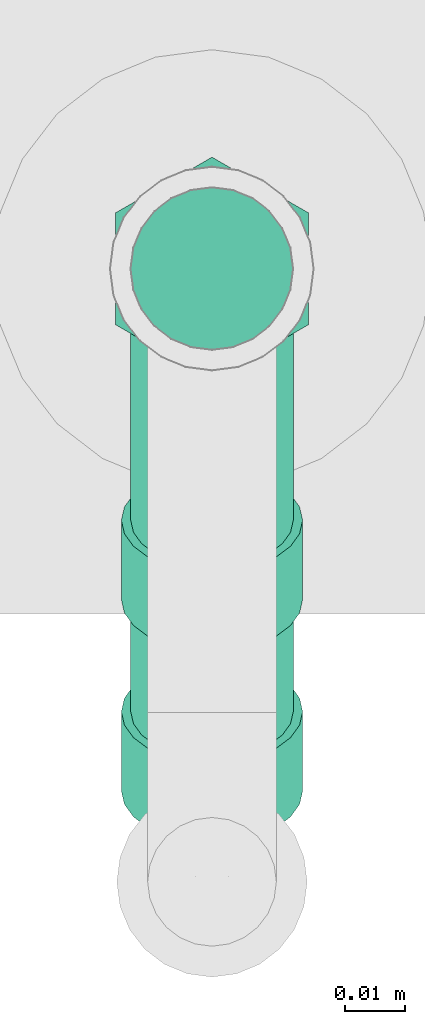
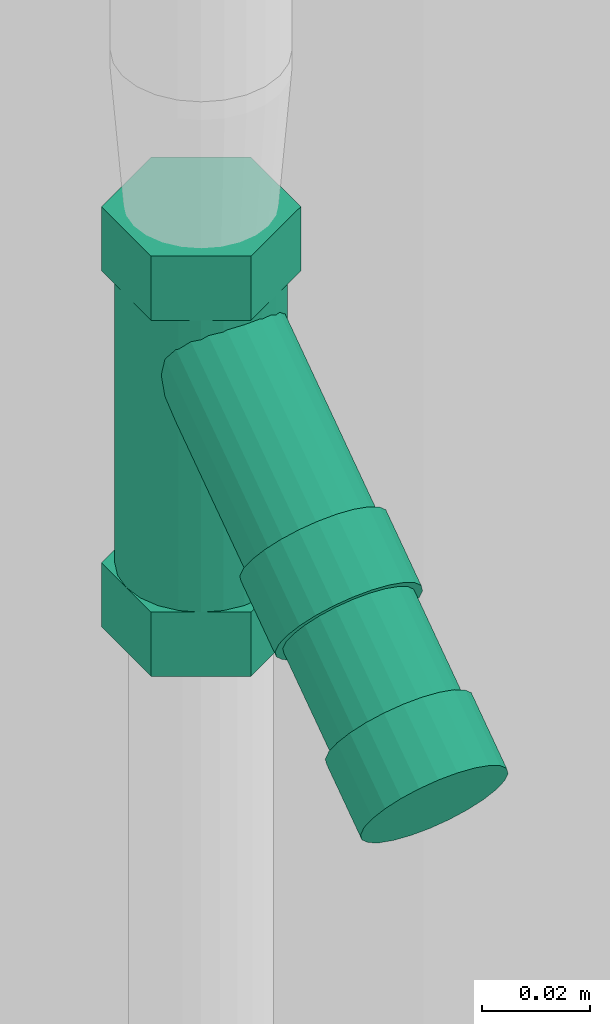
# One storey, part 101 of 374: 1 flow treatment device.
"""IFC2X3 building model written with IfcOpenShell, lengths in metres."""

from ifc_helpers import new_model, si_unit, direction, origin, place, context, subcontext, project, spatial, open_shell, surface_model, source, transform, mapped, element, save


model = new_model("IFC2X3")

# Units and contexts
model_context = context("Model", 3, precision=1e-05, world=origin(), true_north=direction((-0.4480736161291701, 0.8939966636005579)))
body_context = subcontext(model_context, "Body", "Model", "MODEL_VIEW")
ifc_project = project(units=[si_unit("LENGTHUNIT", "METRE"), si_unit("AREAUNIT", "SQUARE_METRE"), si_unit("VOLUMEUNIT", "CUBIC_METRE"), si_unit("PLANEANGLEUNIT", "RADIAN"), si_unit("THERMODYNAMICTEMPERATUREUNIT", "KELVIN"), si_unit("MASSUNIT", "GRAM", prefix="KILO"), si_unit("TIMEUNIT", "SECOND")], contexts=[model_context])

# Site, building, storey
site_placement = place(None, origin())
site = spatial("IfcSite", under=ifc_project, at=site_placement, Name="Site 1", CompositionType="ELEMENT")
building_placement = place(site_placement, origin())
building = spatial("IfcBuilding", under=site, at=building_placement, Name="Undefined", CompositionType="ELEMENT")
storey_placement = place(building_placement, origin())
storey = spatial("IfcBuildingStorey", under=building, at=storey_placement, Name="Rez de chauss\x8ee", CompositionType="ELEMENT", Elevation=0.0)

# Flow treatment device
shared_shape = source(origin(), body_context, "Body", "SurfaceModel", [
    surface_model("IfcFaceBasedSurfaceModel", [(0.0, 0.0035111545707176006, 0.0), (0.0, 0.0, 0.0), (0.02585578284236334, 7.105427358e-15, 0.0), (0.024975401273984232, 0.003511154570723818, -3.552713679e-15), (0.0, -0.003391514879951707, -0.0009087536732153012), (0.028436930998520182, -0.003391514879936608, -0.0009087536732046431), (0.0, -0.006432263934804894, -0.0026643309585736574), (0.03254294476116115, -0.006432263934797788, -0.0026643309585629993), (0.0, -0.00891502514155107, -0.005147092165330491), (0.03789400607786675, -0.008915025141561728, -0.005147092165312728), (0.0, -0.010670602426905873, -0.008187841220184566), (0.04412544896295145, -0.010670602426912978, -0.008187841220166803), (0.0, -0.011579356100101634, -0.01157935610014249), (0.050812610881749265, -0.011579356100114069, -0.011579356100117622), (0.0, -0.011579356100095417, -0.015090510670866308), (0.04900045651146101, -0.011579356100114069, -0.015090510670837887), (0.0, -0.010670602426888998, -0.018482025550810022), (0.04731179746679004, -0.010670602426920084, -0.018482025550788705), (0.0, -0.008915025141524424, -0.021522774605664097), (0.04586171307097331, -0.008915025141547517, -0.021522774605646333), (0.0, -0.006432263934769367, -0.02400553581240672), (0.04474902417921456, -0.006432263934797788, -0.024005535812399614), (0.0, -0.0033915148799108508, -0.025761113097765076), (0.04404955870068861, -0.003391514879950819, -0.025761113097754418), (0.0, 4.2632564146e-14, -0.026669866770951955), (0.04381098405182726, 7.105427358e-15, -0.02666986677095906), (0.0, 0.0035111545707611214, -0.026669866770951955), (0.04404955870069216, 0.0035111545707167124, -0.026669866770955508), (0.0, 0.006902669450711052, -0.02576111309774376), (0.04474902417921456, 0.006902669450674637, -0.025761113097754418), (0.0, 0.00994341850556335, -0.024005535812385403), (0.04586171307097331, 0.009943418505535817, -0.02400553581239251), (0.0, 0.012426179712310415, -0.02152277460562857), (0.04731179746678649, 0.012426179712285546, -0.021522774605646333), (0.0, 0.014181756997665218, -0.018482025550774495), (0.04900045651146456, 0.014181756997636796, -0.018482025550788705), (0.0, 0.015090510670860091, -0.01509051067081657), (0.050812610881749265, 0.015090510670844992, -0.015090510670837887), (0.0, 0.015090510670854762, -0.011579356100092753), (0.044125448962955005, 0.015090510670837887, -0.011579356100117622), (0.0, 0.014181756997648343, -0.00818784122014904), (0.037894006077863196, 0.014181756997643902, -0.008187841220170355), (0.0, 0.012426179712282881, -0.005147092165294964), (0.03254294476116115, 0.012426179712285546, -0.005147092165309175), (0.0, 0.009943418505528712, -0.002664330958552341), (0.028436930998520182, 0.009943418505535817, -0.0026643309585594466), (0.0, 0.006902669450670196, -0.0009087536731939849), (0.025855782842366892, 0.006902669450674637, -0.0009087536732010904), (0.07112295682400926, -0.015791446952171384, -0.02403705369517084), (0.05598895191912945, -0.01717462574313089, -0.034543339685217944), (0.047672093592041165, -0.015624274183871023, -0.022767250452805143), (0.06280609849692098, -0.014241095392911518, -0.01226096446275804), (0.07868995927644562, 0.000763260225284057, -0.020872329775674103), (0.07037310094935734, 0.002313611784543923, -0.00909624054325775), (0.07112295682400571, 0.0159347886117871, -0.028213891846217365), (0.06280609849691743, 0.017485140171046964, -0.01643780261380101), (0.055988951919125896, 0.014551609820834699, -0.03872017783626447), (0.04767209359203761, 0.016101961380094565, -0.026944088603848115), (0.048421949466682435, -0.002003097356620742, -0.04188490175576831), (0.04010509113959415, -0.00045274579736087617, -0.030108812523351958), (0.05523909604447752, 0.016793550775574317, -0.021690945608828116), (0.05184690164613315, 0.01594299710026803, -0.023974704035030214), (0.013990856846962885, 0.0229997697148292, 0.029626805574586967), (0.017383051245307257, 0.023850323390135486, 0.031910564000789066), (0.048685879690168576, 0.014069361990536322, -0.025960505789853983), (0.010829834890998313, 0.02112613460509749, 0.0276410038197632), (0.04597144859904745, 0.011300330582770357, -0.02751302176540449), (0.008115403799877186, 0.018357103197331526, 0.026088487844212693), (0.04388859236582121, 0.007824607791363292, -0.028526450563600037), (0.006032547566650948, 0.01488138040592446, 0.025075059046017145), (0.042579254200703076, 0.0038790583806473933, -0.028931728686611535), (0.004723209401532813, 0.010935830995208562, 0.024669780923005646), (0.04213266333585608, -0.0002674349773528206, -0.028701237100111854), (0.004276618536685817, 0.006789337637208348, 0.024900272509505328), (0.04257925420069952, -0.004332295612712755, -0.02785068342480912), (0.00472320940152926, 0.0027244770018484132, 0.025750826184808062), (0.04388859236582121, -0.008038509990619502, -0.026438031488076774), (0.006032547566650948, -0.0009817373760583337, 0.027163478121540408), (0.04597144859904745, -0.011133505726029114, -0.024559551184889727), (0.008115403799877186, -0.004076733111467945, 0.029041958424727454), (0.048685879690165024, -0.01340636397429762, -0.022343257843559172), (0.01082983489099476, -0.006349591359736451, 0.03125825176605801), (0.05184690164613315, -0.014702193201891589, -0.019940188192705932), (0.013990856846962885, -0.00764542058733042, 0.03366132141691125), (0.05523909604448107, -0.01493268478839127, -0.01751410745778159), (0.01738305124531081, -0.007875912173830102, 0.03608740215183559), (0.058631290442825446, -0.014082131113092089, -0.015230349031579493), (0.020775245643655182, -0.00702535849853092, 0.03837116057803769), (0.06179231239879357, -0.01220849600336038, -0.013244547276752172), (0.023936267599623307, -0.005151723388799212, 0.04035696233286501), (0.0645067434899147, -0.00943946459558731, -0.011692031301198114), (0.026650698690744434, -0.0023826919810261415, 0.04190947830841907), (0.06658959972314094, -0.005963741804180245, -0.010678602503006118), (0.028733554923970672, 0.0010930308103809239, 0.04292290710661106), (0.06789893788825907, -0.0020181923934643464, -0.010273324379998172), (0.030042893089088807, 0.005038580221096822, 0.04332818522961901), (0.06834552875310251, 0.0021283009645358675, -0.010503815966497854), (0.03048948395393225, 0.009185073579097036, 0.04309769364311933), (0.06789893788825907, 0.006193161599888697, -0.011354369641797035), (0.030042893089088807, 0.013249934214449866, 0.042247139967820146), (0.06658959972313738, 0.00989937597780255, -0.01276702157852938), (0.02873355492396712, 0.016956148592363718, 0.0408344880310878), (0.0645067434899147, 0.012994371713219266, -0.014645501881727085), (0.026650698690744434, 0.020051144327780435, 0.038956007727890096), (0.06179231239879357, 0.015267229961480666, -0.016861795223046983), (0.023936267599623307, 0.022324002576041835, 0.0367397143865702), (0.058631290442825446, 0.01656305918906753, -0.019264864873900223), (0.020775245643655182, 0.0236198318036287, 0.03433664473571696), (0.024950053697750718, -0.007184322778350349, 0.04134054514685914), (0.009816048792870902, -0.008567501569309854, 0.03083425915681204), (0.0014991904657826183, -0.007017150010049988, 0.04261034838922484), (0.016633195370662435, -0.005633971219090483, 0.05311663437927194), (0.032517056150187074, 0.009370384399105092, 0.04450526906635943), (0.02420019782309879, 0.010920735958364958, 0.05628135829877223), (0.024950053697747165, 0.024541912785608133, 0.03716370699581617), (0.016633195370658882, 0.026092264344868, 0.04893979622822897), (0.009816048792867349, 0.023158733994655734, 0.026657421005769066), (0.0014991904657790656, 0.0247090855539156, 0.03843351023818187), (0.002249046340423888, 0.0066040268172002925, 0.023492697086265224), (-0.006067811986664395, 0.008154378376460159, 0.035268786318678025), (0.0, 0.016627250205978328, -0.015292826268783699), (3.552713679e-15, 0.015613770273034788, -0.01907518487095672), (-0.015999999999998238, 0.015613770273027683, -0.01907518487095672), (-0.01600000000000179, 0.016627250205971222, -0.015292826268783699), (3.552713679e-15, 0.01365587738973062, -0.022466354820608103), (-0.015999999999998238, 0.013655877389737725, -0.022466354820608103), (0.0, 0.010886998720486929, -0.02523523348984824), (-0.01600000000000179, 0.01088699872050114, -0.02523523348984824), (0.0, 0.007495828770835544, -0.027193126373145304), (-0.015999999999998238, 0.00749582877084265, -0.027193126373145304), (3.552713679e-15, 0.003713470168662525, -0.028206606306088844), (-0.015999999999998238, 0.0037134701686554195, -0.028206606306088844), (0.0, -0.00020231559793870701, -0.028206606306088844), (-0.015999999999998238, -0.00020231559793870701, -0.02820660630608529), (3.552713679e-15, -0.003984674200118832, -0.027193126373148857), (-0.016000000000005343, -0.003984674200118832, -0.027193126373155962), (0.0, -0.0073758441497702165, -0.02523523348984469), (-0.01600000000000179, -0.007375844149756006, -0.02523523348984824), (0.0, -0.010144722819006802, -0.022466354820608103), (-0.01600000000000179, -0.010144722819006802, -0.022466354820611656), (0.0, -0.012102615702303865, -0.019075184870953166), (-0.015999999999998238, -0.01210261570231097, -0.019075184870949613), (-3.552713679e-15, -0.013116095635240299, -0.015292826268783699), (-0.01600000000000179, -0.013116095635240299, -0.015292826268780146), (3.552713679e-15, -0.013116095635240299, -0.011377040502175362), (-0.015999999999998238, -0.013116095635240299, -0.011377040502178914), (-3.552713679e-15, -0.01210261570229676, -0.007594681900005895), (-0.01600000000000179, -0.012102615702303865, -0.007594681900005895), (3.552713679e-15, -0.010144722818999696, -0.004203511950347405), (-0.01600000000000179, -0.010144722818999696, -0.004203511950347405), (3.552713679e-15, -0.007375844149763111, -0.0014346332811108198), (-0.01600000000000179, -0.007375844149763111, -0.0014346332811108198), (-3.552713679e-15, -0.003984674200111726, 0.0005232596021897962), (-0.01600000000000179, -0.003984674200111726, 0.0005232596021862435), (-3.552713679e-15, -0.0002023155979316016, 0.0015367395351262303), (-0.016000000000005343, -0.0002023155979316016, 0.0015367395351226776), (0.0, 0.0037134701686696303, 0.001536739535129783), (-0.01600000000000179, 0.003713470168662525, 0.001536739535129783), (-3.552713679e-15, 0.00749582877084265, 0.0005232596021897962), (-0.01600000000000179, 0.00749582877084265, 0.0005232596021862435), (0.0, 0.01088699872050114, -0.0014346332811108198), (-0.015999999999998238, 0.010886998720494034, -0.0014346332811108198), (0.0, 0.013655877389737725, -0.004203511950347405), (-0.01600000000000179, 0.013655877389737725, -0.004203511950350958), (-3.552713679e-15, 0.015613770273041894, -0.0075946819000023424), (-0.01600000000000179, 0.015613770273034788, -0.007594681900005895), (0.0, 0.016627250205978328, -0.011377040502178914), (-0.01600000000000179, 0.016627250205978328, -0.011377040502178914), (3.552713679e-15, 0.0017555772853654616, -0.01333493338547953), (-0.015999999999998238, 0.0017555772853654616, -0.01333493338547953), (-0.01600000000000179, 0.015090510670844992, -0.01509051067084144), (-0.01600000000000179, 0.014181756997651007, -0.018482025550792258), (-0.03865786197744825, 0.014181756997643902, -0.018482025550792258), (-0.03865786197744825, 0.015090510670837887, -0.01509051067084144), (-0.015999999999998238, 0.012426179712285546, -0.021522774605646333), (-0.038657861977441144, 0.012426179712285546, -0.021522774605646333), (-0.015999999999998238, 0.009943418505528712, -0.02400553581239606), (-0.038657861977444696, 0.009943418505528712, -0.02400553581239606), (-0.01600000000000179, 0.006902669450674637, -0.02576111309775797), (-0.03865786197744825, 0.006902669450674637, -0.025761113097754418), (-0.015999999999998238, 0.003511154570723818, -0.026669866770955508), (-0.038657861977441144, 0.0035111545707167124, -0.02666986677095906), (-0.01600000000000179, 0.0, -0.02666986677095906), (-0.038657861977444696, 7.105427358e-15, -0.026669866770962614), (-0.016000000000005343, -0.0033915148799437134, -0.02576111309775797), (-0.03865786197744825, -0.003391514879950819, -0.02576111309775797), (-0.01600000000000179, -0.006432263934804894, -0.02400553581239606), (-0.03865786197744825, -0.006432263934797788, -0.024005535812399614), (-0.016000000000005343, -0.008915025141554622, -0.021522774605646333), (-0.03865786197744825, -0.008915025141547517, -0.021522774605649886), (-0.015999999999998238, -0.010670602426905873, -0.018482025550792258), (-0.03865786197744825, -0.010670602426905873, -0.018482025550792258), (-0.015999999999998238, -0.011579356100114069, -0.015090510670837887), (-0.03865786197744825, -0.011579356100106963, -0.01509051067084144), (-0.015999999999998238, -0.011579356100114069, -0.011579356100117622), (-0.038657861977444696, -0.011579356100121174, -0.011579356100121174), (-0.01600000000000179, -0.010670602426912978, -0.008187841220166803), (-0.038657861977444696, -0.010670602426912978, -0.008187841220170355), (-0.01600000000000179, -0.008915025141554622, -0.0051470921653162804), (-0.0386578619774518, -0.008915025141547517, -0.0051470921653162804), (-0.01600000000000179, -0.006432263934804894, -0.0026643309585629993), (-0.038657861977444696, -0.006432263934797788, -0.0026643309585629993), (-0.015999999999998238, -0.003391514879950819, -0.0009087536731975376), (-0.038657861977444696, -0.0033915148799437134, -0.0009087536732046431), (-0.015999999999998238, 0.0, 0.0), (-0.03865786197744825, 7.105427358e-15, -3.552713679e-15), (-0.015999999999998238, 0.003511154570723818, 0.0), (-0.03865786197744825, 0.0035111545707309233, -7.105427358e-15), (-0.01600000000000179, 0.006902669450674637, -0.0009087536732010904), (-0.038657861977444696, 0.006902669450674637, -0.0009087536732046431), (-0.01600000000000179, 0.009943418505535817, -0.0026643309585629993), (-0.038657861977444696, 0.009943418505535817, -0.0026643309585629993), (-0.01600000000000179, 0.012426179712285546, -0.0051470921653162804), (-0.038657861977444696, 0.012426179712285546, -0.005147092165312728), (-0.015999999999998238, 0.014181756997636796, -0.008187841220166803), (-0.038657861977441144, 0.014181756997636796, -0.008187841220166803), (-0.01600000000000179, 0.015090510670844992, -0.011579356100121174), (-0.038657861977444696, 0.015090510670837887, -0.011579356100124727), (-0.03865786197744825, 0.016627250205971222, -0.015292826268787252), (-0.03865786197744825, 0.015613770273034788, -0.01907518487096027), (-0.054657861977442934, 0.015613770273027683, -0.01907518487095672), (-0.05465786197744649, 0.016627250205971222, -0.015292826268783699), (-0.03865786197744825, 0.01365587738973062, -0.022466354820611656), (-0.054657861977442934, 0.01365587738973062, -0.022466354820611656), (-0.038657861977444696, 0.010886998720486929, -0.02523523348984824), (-0.05465786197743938, 0.010886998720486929, -0.02523523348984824), (-0.03865786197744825, 0.007495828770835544, -0.02719312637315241), (-0.054657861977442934, 0.007495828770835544, -0.027193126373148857), (-0.03865786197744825, 0.003713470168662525, -0.02820660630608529), (-0.05465786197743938, 0.003713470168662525, -0.02820660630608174), (-0.03865786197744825, -0.00020231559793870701, -0.02820660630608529), (-0.054657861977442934, -0.00020231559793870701, -0.02820660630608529), (-0.0386578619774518, -0.003984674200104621, -0.02719312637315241), (-0.054657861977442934, -0.003984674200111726, -0.027193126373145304), (-0.038657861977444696, -0.0073758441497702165, -0.025235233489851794), (-0.05465786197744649, -0.0073758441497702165, -0.02523523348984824), (-0.038657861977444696, -0.010144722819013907, -0.022466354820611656), (-0.054657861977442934, -0.010144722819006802, -0.022466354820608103), (-0.03865786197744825, -0.01210261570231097, -0.019075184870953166), (-0.054657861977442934, -0.01210261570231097, -0.019075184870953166), (-0.03865786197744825, -0.013116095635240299, -0.015292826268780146), (-0.054657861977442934, -0.013116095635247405, -0.015292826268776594), (-0.03865786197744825, -0.013116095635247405, -0.011377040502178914), (-0.054657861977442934, -0.01311609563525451, -0.011377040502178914), (-0.03865786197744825, -0.012102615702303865, -0.007594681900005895), (-0.054657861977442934, -0.012102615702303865, -0.0075946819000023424), (-0.03865786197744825, -0.010144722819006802, -0.004203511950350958), (-0.05465786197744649, -0.010144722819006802, -0.004203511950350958), (-0.03865786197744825, -0.007375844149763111, -0.0014346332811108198), (-0.054657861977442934, -0.0073758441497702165, -0.0014346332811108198), (-0.038657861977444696, -0.003984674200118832, 0.0005232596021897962), (-0.05465786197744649, -0.003984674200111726, 0.0005232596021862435), (-0.03865786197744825, -0.0002023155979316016, 0.0015367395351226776), (-0.05465786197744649, -0.00020231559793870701, 0.0015367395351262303), (-0.038657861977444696, 0.003713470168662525, 0.0015367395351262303), (-0.054657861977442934, 0.003713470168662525, 0.001536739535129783), (-0.038657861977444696, 0.00749582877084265, 0.0005232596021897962), (-0.054657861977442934, 0.007495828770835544, 0.0005232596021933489), (-0.038657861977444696, 0.010886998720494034, -0.0014346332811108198), (-0.054657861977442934, 0.010886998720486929, -0.0014346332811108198), (-0.038657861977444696, 0.01365587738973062, -0.004203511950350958), (-0.054657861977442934, 0.01365587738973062, -0.004203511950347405), (-0.03865786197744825, 0.015613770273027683, -0.007594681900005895), (-0.05465786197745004, 0.015613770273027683, -0.007594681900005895), (-0.038657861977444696, 0.016627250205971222, -0.011377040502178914), (-0.054657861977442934, 0.016627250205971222, -0.011377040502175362), (-0.03865786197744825, 0.0017555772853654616, -0.013334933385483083), (-0.05465786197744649, 0.0017555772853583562, -0.013334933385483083)], [open_shell([[[0, 1, 2, 3]], [[1, 4, 5, 2]], [[4, 6, 7, 5]], [[6, 8, 9, 7]], [[8, 10, 11, 9]], [[10, 12, 13, 11]], [[12, 14, 15, 13]], [[14, 16, 17, 15]], [[16, 18, 19, 17]], [[18, 20, 21, 19]], [[20, 22, 23, 21]], [[22, 24, 25, 23]], [[24, 26, 27, 25]], [[26, 28, 29, 27]], [[28, 30, 31, 29]], [[30, 32, 33, 31]], [[32, 34, 35, 33]], [[34, 36, 37, 35]], [[36, 38, 39, 37]], [[38, 40, 41, 39]], [[40, 42, 43, 41]], [[42, 44, 45, 43]], [[44, 46, 47, 45]], [[46, 0, 3, 47]], [[48, 49, 50, 51]], [[52, 48, 51, 53]], [[54, 52, 53, 55]], [[56, 54, 55, 57]], [[58, 56, 57, 59]], [[49, 58, 59, 50]], [[49, 48, 52]], [[49, 52, 54]], [[49, 54, 56]], [[49, 56, 58]], [[50, 53, 51]], [[50, 55, 53]], [[50, 57, 55]], [[50, 59, 57]], [[60, 61, 62, 63]], [[61, 64, 65, 62]], [[64, 66, 67, 65]], [[66, 68, 69, 67]], [[68, 70, 71, 69]], [[70, 72, 73, 71]], [[72, 74, 75, 73]], [[74, 76, 77, 75]], [[76, 78, 79, 77]], [[78, 80, 81, 79]], [[80, 82, 83, 81]], [[82, 84, 85, 83]], [[84, 86, 87, 85]], [[86, 88, 89, 87]], [[88, 90, 91, 89]], [[90, 92, 93, 91]], [[92, 94, 95, 93]], [[94, 96, 97, 95]], [[96, 98, 99, 97]], [[98, 100, 101, 99]], [[100, 102, 103, 101]], [[102, 104, 105, 103]], [[104, 106, 107, 105]], [[106, 60, 63, 107]], [[108, 109, 110, 111]], [[112, 108, 111, 113]], [[114, 112, 113, 115]], [[116, 114, 115, 117]], [[118, 116, 117, 119]], [[109, 118, 119, 110]], [[109, 108, 112]], [[109, 112, 114]], [[109, 114, 116]], [[109, 116, 118]], [[110, 113, 111]], [[110, 115, 113]], [[110, 117, 115]], [[110, 119, 117]], [[120, 121, 122, 123]], [[121, 124, 125, 122]], [[124, 126, 127, 125]], [[126, 128, 129, 127]], [[128, 130, 131, 129]], [[130, 132, 133, 131]], [[132, 134, 135, 133]], [[134, 136, 137, 135]], [[136, 138, 139, 137]], [[138, 140, 141, 139]], [[140, 142, 143, 141]], [[142, 144, 145, 143]], [[144, 146, 147, 145]], [[146, 148, 149, 147]], [[148, 150, 151, 149]], [[150, 152, 153, 151]], [[152, 154, 155, 153]], [[154, 156, 157, 155]], [[156, 158, 159, 157]], [[158, 160, 161, 159]], [[160, 162, 163, 161]], [[162, 164, 165, 163]], [[164, 166, 167, 165]], [[166, 120, 123, 167]], [[168, 121, 120]], [[168, 124, 121]], [[168, 126, 124]], [[168, 128, 126]], [[168, 130, 128]], [[168, 132, 130]], [[168, 134, 132]], [[168, 136, 134]], [[168, 138, 136]], [[168, 140, 138]], [[168, 142, 140]], [[168, 144, 142]], [[168, 146, 144]], [[168, 148, 146]], [[168, 150, 148]], [[168, 152, 150]], [[168, 154, 152]], [[168, 156, 154]], [[168, 158, 156]], [[168, 160, 158]], [[168, 162, 160]], [[168, 164, 162]], [[168, 166, 164]], [[168, 120, 166]], [[169, 167, 123]], [[169, 165, 167]], [[169, 163, 165]], [[169, 161, 163]], [[169, 159, 161]], [[169, 157, 159]], [[169, 155, 157]], [[169, 153, 155]], [[169, 151, 153]], [[169, 149, 151]], [[169, 147, 149]], [[169, 145, 147]], [[169, 143, 145]], [[169, 141, 143]], [[169, 139, 141]], [[169, 137, 139]], [[169, 135, 137]], [[169, 133, 135]], [[169, 131, 133]], [[169, 129, 131]], [[169, 127, 129]], [[169, 125, 127]], [[169, 122, 125]], [[169, 123, 122]], [[170, 171, 172, 173]], [[171, 174, 175, 172]], [[174, 176, 177, 175]], [[176, 178, 179, 177]], [[178, 180, 181, 179]], [[180, 182, 183, 181]], [[182, 184, 185, 183]], [[184, 186, 187, 185]], [[186, 188, 189, 187]], [[188, 190, 191, 189]], [[190, 192, 193, 191]], [[192, 194, 195, 193]], [[194, 196, 197, 195]], [[196, 198, 199, 197]], [[198, 200, 201, 199]], [[200, 202, 203, 201]], [[202, 204, 205, 203]], [[204, 206, 207, 205]], [[206, 208, 209, 207]], [[208, 210, 211, 209]], [[210, 212, 213, 211]], [[212, 214, 215, 213]], [[214, 216, 217, 215]], [[216, 170, 173, 217]], [[218, 219, 220, 221]], [[219, 222, 223, 220]], [[222, 224, 225, 223]], [[224, 226, 227, 225]], [[226, 228, 229, 227]], [[228, 230, 231, 229]], [[230, 232, 233, 231]], [[232, 234, 235, 233]], [[234, 236, 237, 235]], [[236, 238, 239, 237]], [[238, 240, 241, 239]], [[240, 242, 243, 241]], [[242, 244, 245, 243]], [[244, 246, 247, 245]], [[246, 248, 249, 247]], [[248, 250, 251, 249]], [[250, 252, 253, 251]], [[252, 254, 255, 253]], [[254, 256, 257, 255]], [[256, 258, 259, 257]], [[258, 260, 261, 259]], [[260, 262, 263, 261]], [[262, 264, 265, 263]], [[264, 218, 221, 265]], [[266, 219, 218]], [[266, 222, 219]], [[266, 224, 222]], [[266, 226, 224]], [[266, 228, 226]], [[266, 230, 228]], [[266, 232, 230]], [[266, 234, 232]], [[266, 236, 234]], [[266, 238, 236]], [[266, 240, 238]], [[266, 242, 240]], [[266, 244, 242]], [[266, 246, 244]], [[266, 248, 246]], [[266, 250, 248]], [[266, 252, 250]], [[266, 254, 252]], [[266, 256, 254]], [[266, 258, 256]], [[266, 260, 258]], [[266, 262, 260]], [[266, 264, 262]], [[266, 218, 264]], [[267, 265, 221]], [[267, 263, 265]], [[267, 261, 263]], [[267, 259, 261]], [[267, 257, 259]], [[267, 255, 257]], [[267, 253, 255]], [[267, 251, 253]], [[267, 249, 251]], [[267, 247, 249]], [[267, 245, 247]], [[267, 243, 245]], [[267, 241, 243]], [[267, 239, 241]], [[267, 237, 239]], [[267, 235, 237]], [[267, 233, 235]], [[267, 231, 233]], [[267, 229, 231]], [[267, 227, 229]], [[267, 225, 227]], [[267, 223, 225]], [[267, 220, 223]], [[267, 221, 220]]])]),
])
flow_treatment_device_placement = place(storey_placement, origin())
element("IfcFlowTreatmentDevice", 1, at=flow_treatment_device_placement, inside=storey, Name="Filtre en Y", ObjectType="Filtre en Y", context=body_context, shape_type="MappedRepresentation", body=[
    mapped(shared_shape, transform((53.054080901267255, 10.883865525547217, 1.7342689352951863), x_axis=(0.0, 0.8191520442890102, 0.5735764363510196), y_axis=(0.9914448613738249, 0.07486674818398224, -0.1069207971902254), z_axis=(-0.13052619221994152, 0.5686694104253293, -0.8121440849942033))),
])

save(model, "model.ifc")
